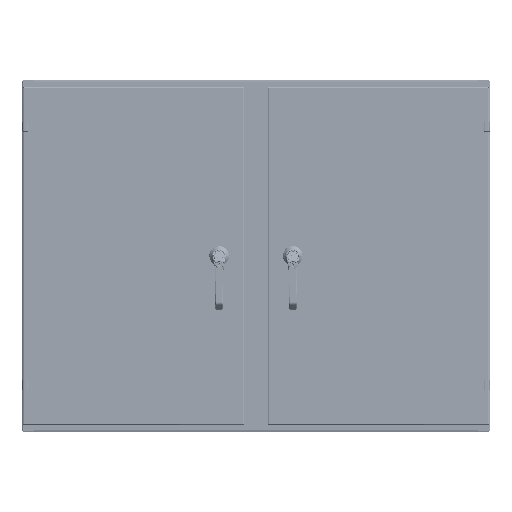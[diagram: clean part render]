
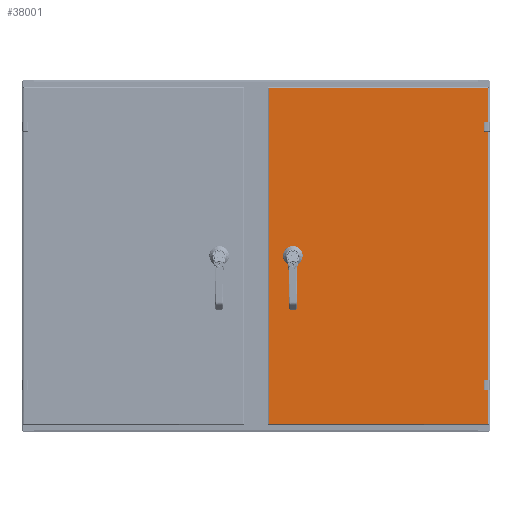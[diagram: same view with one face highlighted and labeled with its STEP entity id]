
A CAD part, top view. The second image highlights one B-rep face of the part: STEP entity #38001.
In plain terms, the highlighted planar face has unit normal (0, 0, 1).
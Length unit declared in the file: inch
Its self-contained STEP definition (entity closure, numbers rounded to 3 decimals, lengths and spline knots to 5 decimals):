
#34670=CARTESIAN_POINT('',(-1.09,8.775,0.));
#34671=DIRECTION('',(0.,0.,1.));
#34672=DIRECTION('',(0.,1.,0.));
#34673=AXIS2_PLACEMENT_3D('',#34670,#34671,#34672);
#34678=CARTESIAN_POINT('',(-1.09,8.775,0.));
#34679=DIRECTION('',(0.,0.,1.));
#34680=DIRECTION('',(0.,-1.,0.));
#34681=AXIS2_PLACEMENT_3D('',#34678,#34679,#34680);
#34686=DIRECTION('',(0.,-1.,0.));
#34687=VECTOR('',#34686,0.39715);
#34688=CARTESIAN_POINT('',(0.396,8.97358,0.));
#34689=LINE('',#34688,#34687);
#34693=CARTESIAN_POINT('',(0.,8.775,0.));
#34694=DIRECTION('',(0.,0.,1.));
#34695=DIRECTION('',(0.894,0.448,0.));
#34696=AXIS2_PLACEMENT_3D('',#34693,#34694,#34695);
#34701=DIRECTION('',(1.,0.,0.));
#34702=VECTOR('',#34701,0.39715);
#34703=CARTESIAN_POINT('',(-0.19858,9.171,0.));
#34704=LINE('',#34703,#34702);
#34708=CARTESIAN_POINT('',(0.,8.775,0.));
#34709=DIRECTION('',(0.,0.,1.));
#34710=DIRECTION('',(-0.448,0.894,0.));
#34711=AXIS2_PLACEMENT_3D('',#34708,#34709,#34710);
#34716=DIRECTION('',(0.,1.,0.));
#34717=VECTOR('',#34716,0.39715);
#34718=CARTESIAN_POINT('',(-0.396,8.57642,0.));
#34719=LINE('',#34718,#34717);
#34723=CARTESIAN_POINT('',(0.,8.775,0.));
#34724=DIRECTION('',(0.,0.,1.));
#34725=DIRECTION('',(-0.894,-0.448,0.));
#34726=AXIS2_PLACEMENT_3D('',#34723,#34724,#34725);
#34731=DIRECTION('',(-1.,0.,0.));
#34732=VECTOR('',#34731,0.39715);
#34733=CARTESIAN_POINT('',(0.19858,8.379,0.));
#34734=LINE('',#34733,#34732);
#34738=CARTESIAN_POINT('',(0.,8.775,0.));
#34739=DIRECTION('',(0.,0.,1.));
#34740=DIRECTION('',(0.448,-0.894,0.));
#34741=AXIS2_PLACEMENT_3D('',#34738,#34739,#34740);
#34746=DIRECTION('',(0.,1.,0.));
#34747=VECTOR('',#34746,0.3629);
#34748=CARTESIAN_POINT('',(13.595,-11.233,0.));
#34749=LINE('',#34748,#34747);
#34753=DIRECTION('',(-1.,0.,0.));
#34754=VECTOR('',#34753,0.63);
#34755=CARTESIAN_POINT('',(13.565,-10.8401,0.));
#34756=LINE('',#34755,#34754);
#34760=DIRECTION('',(0.,1.,0.));
#34761=VECTOR('',#34760,0.3629);
#34762=CARTESIAN_POINT('',(12.905,-11.233,0.));
#34763=LINE('',#34762,#34761);
#34767=DIRECTION('',(0.,1.,0.));
#34768=VECTOR('',#34767,0.3629);
#34769=CARTESIAN_POINT('',(-12.905,-11.233,0.));
#34770=LINE('',#34769,#34768);
#34774=DIRECTION('',(-1.,0.,0.));
#34775=VECTOR('',#34774,0.63);
#34776=CARTESIAN_POINT('',(-12.935,-10.8401,0.));
#34777=LINE('',#34776,#34775);
#34781=DIRECTION('',(0.,1.,0.));
#34782=VECTOR('',#34781,0.3629);
#34783=CARTESIAN_POINT('',(-13.595,-11.233,0.));
#34784=LINE('',#34783,#34782);
#35240=CARTESIAN_POINT('',(-17.208,-11.233,0.));
#35331=DIRECTION('',(-1.,0.,0.));
#35332=VECTOR('',#35331,25.81);
#35333=CARTESIAN_POINT('',(12.905,-11.233,0.));
#35334=LINE('',#35333,#35332);
#35406=DIRECTION('',(-1.,0.,0.));
#35407=VECTOR('',#35406,3.613);
#35408=CARTESIAN_POINT('',(17.208,-11.233,0.));
#35409=LINE('',#35408,#35407);
#35413=DIRECTION('',(-1.,0.,0.));
#35414=VECTOR('',#35413,3.613);
#35415=CARTESIAN_POINT('',(-13.595,-11.233,0.));
#35416=LINE('',#35415,#35414);
#35449=CARTESIAN_POINT('',(-12.935,-10.8701,0.));
#35450=DIRECTION('',(0.,0.,-1.));
#35451=DIRECTION('',(0.,1.,0.));
#35452=AXIS2_PLACEMENT_3D('',#35449,#35450,#35451);
#35479=CARTESIAN_POINT('',(-13.565,-10.8701,0.));
#35480=DIRECTION('',(0.,0.,-1.));
#35481=DIRECTION('',(-1.,0.,0.));
#35482=AXIS2_PLACEMENT_3D('',#35479,#35480,#35481);
#36344=CARTESIAN_POINT('',(13.565,-10.8701,0.));
#36345=DIRECTION('',(0.,0.,-1.));
#36346=DIRECTION('',(0.,1.,0.));
#36347=AXIS2_PLACEMENT_3D('',#36344,#36345,#36346);
#36374=CARTESIAN_POINT('',(12.935,-10.8701,0.));
#36375=DIRECTION('',(0.,0.,-1.));
#36376=DIRECTION('',(-1.,0.,0.));
#36377=AXIS2_PLACEMENT_3D('',#36374,#36375,#36376);
#36705=DIRECTION('',(0.,-1.,0.));
#36706=VECTOR('',#36705,22.466);
#36707=CARTESIAN_POINT('',(17.208,11.233,0.));
#36708=LINE('',#36707,#36706);
#36893=DIRECTION('',(1.,0.,0.));
#36894=VECTOR('',#36893,34.416);
#36895=CARTESIAN_POINT('',(-17.208,11.233,0.));
#36896=LINE('',#36895,#36894);
#36997=DIRECTION('',(0.,1.,0.));
#36998=VECTOR('',#36997,22.466);
#36999=CARTESIAN_POINT('',(-17.208,-11.233,0.));
#37000=LINE('',#36999,#36998);
#37524=CARTESIAN_POINT('',(-17.208,11.233,0.));
#37525=CARTESIAN_POINT('',(17.208,11.233,0.));
#37526=VERTEX_POINT('',#37524);
#37527=VERTEX_POINT('',#37525);
#37628=CARTESIAN_POINT('',(-1.09,8.9,0.));
#37629=CARTESIAN_POINT('',(-1.09,8.65,0.));
#37630=VERTEX_POINT('',#37628);
#37631=VERTEX_POINT('',#37629);
#37632=CARTESIAN_POINT('',(0.396,8.97358,0.));
#37633=CARTESIAN_POINT('',(0.396,8.57642,0.));
#37634=VERTEX_POINT('',#37632);
#37635=VERTEX_POINT('',#37633);
#37636=CARTESIAN_POINT('',(0.19858,8.379,0.));
#37637=VERTEX_POINT('',#37636);
#37638=CARTESIAN_POINT('',(-0.19858,8.379,0.));
#37639=VERTEX_POINT('',#37638);
#37640=CARTESIAN_POINT('',(-0.396,8.57642,0.));
#37641=VERTEX_POINT('',#37640);
#37642=CARTESIAN_POINT('',(-0.396,8.97358,0.));
#37643=VERTEX_POINT('',#37642);
#37644=CARTESIAN_POINT('',(-0.19858,9.171,0.));
#37645=VERTEX_POINT('',#37644);
#37646=CARTESIAN_POINT('',(0.19858,9.171,0.));
#37647=VERTEX_POINT('',#37646);
#37736=CARTESIAN_POINT('',(17.208,-11.233,0.));
#37738=VERTEX_POINT('',#37736);
#37761=VERTEX_POINT('',#35240);
#37842=CARTESIAN_POINT('',(12.905,-11.233,0.));
#37844=VERTEX_POINT('',#37842);
#37846=CARTESIAN_POINT('',(13.595,-11.233,0.));
#37848=VERTEX_POINT('',#37846);
#37874=CARTESIAN_POINT('',(12.905,-10.8701,0.));
#37876=VERTEX_POINT('',#37874);
#37878=CARTESIAN_POINT('',(12.935,-10.8401,0.));
#37880=VERTEX_POINT('',#37878);
#37882=CARTESIAN_POINT('',(13.565,-10.8401,0.));
#37884=VERTEX_POINT('',#37882);
#37886=CARTESIAN_POINT('',(13.595,-10.8701,0.));
#37888=VERTEX_POINT('',#37886);
#37890=CARTESIAN_POINT('',(-12.905,-11.233,0.));
#37892=VERTEX_POINT('',#37890);
#37894=CARTESIAN_POINT('',(-13.595,-11.233,0.));
#37896=VERTEX_POINT('',#37894);
#37906=CARTESIAN_POINT('',(-12.935,-10.8401,0.));
#37908=VERTEX_POINT('',#37906);
#37910=CARTESIAN_POINT('',(-12.905,-10.8701,0.));
#37912=VERTEX_POINT('',#37910);
#37914=CARTESIAN_POINT('',(-13.595,-10.8701,0.));
#37916=VERTEX_POINT('',#37914);
#37918=CARTESIAN_POINT('',(-13.565,-10.8401,0.));
#37920=VERTEX_POINT('',#37918);
#37938=CARTESIAN_POINT('',(0.,0.,0.));
#37939=DIRECTION('',(0.,0.,-1.));
#37940=DIRECTION('',(1.,0.,0.));
#37941=AXIS2_PLACEMENT_3D('',#37938,#37939,#37940);
#37942=PLANE('',#37941);
#37944=ORIENTED_EDGE('',*,*,#37943,.T.);
#37946=ORIENTED_EDGE('',*,*,#37945,.T.);
#37948=ORIENTED_EDGE('',*,*,#37947,.T.);
#37950=ORIENTED_EDGE('',*,*,#37949,.T.);
#37952=ORIENTED_EDGE('',*,*,#37951,.T.);
#37954=ORIENTED_EDGE('',*,*,#37953,.F.);
#37956=ORIENTED_EDGE('',*,*,#37955,.T.);
#37958=ORIENTED_EDGE('',*,*,#37957,.F.);
#37960=ORIENTED_EDGE('',*,*,#37959,.F.);
#37962=ORIENTED_EDGE('',*,*,#37961,.T.);
#37964=ORIENTED_EDGE('',*,*,#37963,.T.);
#37966=ORIENTED_EDGE('',*,*,#37965,.F.);
#37968=ORIENTED_EDGE('',*,*,#37967,.T.);
#37970=ORIENTED_EDGE('',*,*,#37969,.F.);
#37972=ORIENTED_EDGE('',*,*,#37971,.F.);
#37974=ORIENTED_EDGE('',*,*,#37973,.T.);
#37975=EDGE_LOOP('',(#37944,#37946,#37948,#37950,#37952,#37954,#37956,#37958,
#37960,#37962,#37964,#37966,#37968,#37970,#37972,#37974));
#37976=FACE_OUTER_BOUND('',#37975,.F.);
#37978=ORIENTED_EDGE('',*,*,#37977,.F.);
#37980=ORIENTED_EDGE('',*,*,#37979,.T.);
#37982=ORIENTED_EDGE('',*,*,#37981,.F.);
#37984=ORIENTED_EDGE('',*,*,#37983,.T.);
#37986=ORIENTED_EDGE('',*,*,#37985,.F.);
#37988=ORIENTED_EDGE('',*,*,#37987,.T.);
#37990=ORIENTED_EDGE('',*,*,#37989,.F.);
#37992=ORIENTED_EDGE('',*,*,#37991,.T.);
#37993=EDGE_LOOP('',(#37978,#37980,#37982,#37984,#37986,#37988,#37990,#37992));
#37994=FACE_BOUND('',#37993,.F.);
#37996=ORIENTED_EDGE('',*,*,#37995,.T.);
#37998=ORIENTED_EDGE('',*,*,#37997,.T.);
#37999=EDGE_LOOP('',(#37996,#37998));
#38000=FACE_BOUND('',#37999,.F.);
#34674=CIRCLE('',#34673,0.125);
#34682=CIRCLE('',#34681,0.125);
#34697=CIRCLE('',#34696,0.443);
#34712=CIRCLE('',#34711,0.443);
#34727=CIRCLE('',#34726,0.443);
#34742=CIRCLE('',#34741,0.443);
#35453=CIRCLE('',#35452,0.03);
#35483=CIRCLE('',#35482,0.03);
#36348=CIRCLE('',#36347,0.03);
#36378=CIRCLE('',#36377,0.03);
#37943=EDGE_CURVE('',#37761,#37526,#37000,.T.);
#37945=EDGE_CURVE('',#37526,#37527,#36896,.T.);
#37947=EDGE_CURVE('',#37527,#37738,#36708,.T.);
#37949=EDGE_CURVE('',#37738,#37848,#35409,.T.);
#37951=EDGE_CURVE('',#37848,#37888,#34749,.T.);
#37953=EDGE_CURVE('',#37884,#37888,#36348,.T.);
#37955=EDGE_CURVE('',#37884,#37880,#34756,.T.);
#37957=EDGE_CURVE('',#37876,#37880,#36378,.T.);
#37959=EDGE_CURVE('',#37844,#37876,#34763,.T.);
#37961=EDGE_CURVE('',#37844,#37892,#35334,.T.);
#37963=EDGE_CURVE('',#37892,#37912,#34770,.T.);
#37965=EDGE_CURVE('',#37908,#37912,#35453,.T.);
#37967=EDGE_CURVE('',#37908,#37920,#34777,.T.);
#37969=EDGE_CURVE('',#37916,#37920,#35483,.T.);
#37971=EDGE_CURVE('',#37896,#37916,#34784,.T.);
#37973=EDGE_CURVE('',#37896,#37761,#35416,.T.);
#37977=EDGE_CURVE('',#37634,#37635,#34689,.T.);
#37979=EDGE_CURVE('',#37634,#37647,#34697,.T.);
#37981=EDGE_CURVE('',#37645,#37647,#34704,.T.);
#37983=EDGE_CURVE('',#37645,#37643,#34712,.T.);
#37985=EDGE_CURVE('',#37641,#37643,#34719,.T.);
#37987=EDGE_CURVE('',#37641,#37639,#34727,.T.);
#37989=EDGE_CURVE('',#37637,#37639,#34734,.T.);
#37991=EDGE_CURVE('',#37637,#37635,#34742,.T.);
#37995=EDGE_CURVE('',#37630,#37631,#34674,.T.);
#37997=EDGE_CURVE('',#37631,#37630,#34682,.T.);
#38001=ADVANCED_FACE('',(#37976,#37994,#38000),#37942,.F.);
